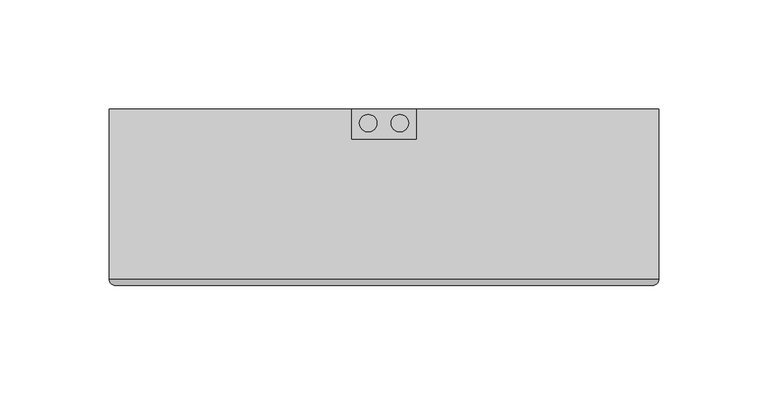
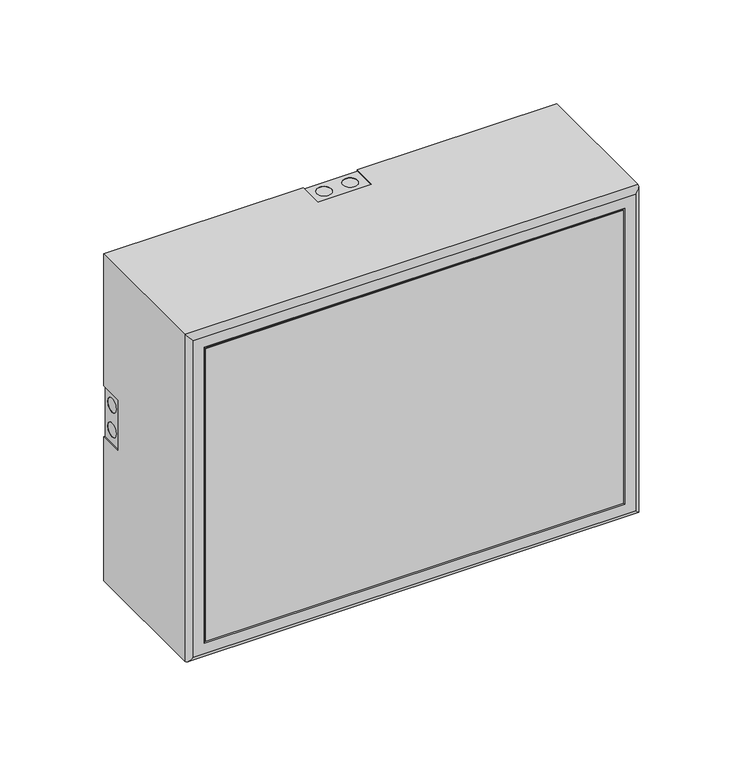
"""IFC4 building model written with IfcOpenShell, lengths in millimetres: proxy geometry, 160831 BIM Data_WA 06-165_T-Metall - EN54 : WA-06-165/T Metall-EN54."""

from ifc_helpers import new_model, si_unit, point, frame, frame_2d, origin, place, context, project, spatial, polyline, circle_curve, ellipse_curve, trimmed, segment, composite_curve, outline, extrude, source, transform, mapped, element, save
from ifc_brep_helpers import plane_surface, cylinder_surface, revolved_surface, advanced_brep


def communication_devices_d5c68b10(model_context):
    return source(origin(), model_context, "Body", "SolidModel", [
        extrude(outline(polyline([(115.9375, 0.0), (-115.9375, 0.0), (-115.9375, 79.3158883), (115.9375, 79.3158883), (115.9375, 0.0)])), frame((0.0, 0.0, 10.0), z_axis=(0.0, 0.0, 1.0), x_axis=(1.0, 0.0, 0.0)), (0.0, 0.0, 1.0), 172.0),
        advanced_brep(
        [(115.9375, 1.0, 182.0), (115.9375, 20.0, 182.0), (115.9375, 20.0, 10.0), (115.9375, 1.0, 10.0), (125.9375, 81.0, 192.0), (125.9375, 3.0, 192.0), (125.9375, 3.0, 0.0), (125.9375, 81.0, 0.0), (125.9375, 81.0, 84.4435161), (125.9375, 67.0, 84.4435161), (125.9375, 67.0, 114.4435161), (125.9375, 81.0, 114.4435161), (-115.9375, 20.0, 10.0), (-115.9375, 1.0, 10.0), (-125.9375, 3.0, 0.0), (-125.9375, 81.0, 0.0), (-115.9375, 20.0, 182.0), (-115.9375, 1.0, 182.0), (-125.9375, 3.0, 192.0), (-125.9375, 81.0, 192.0), (-125.9375, 81.0, 114.4435161), (-125.9375, 67.0, 114.4435161), (-125.9375, 67.0, 84.4435161), (-125.9375, 81.0, 84.4435161), (-125.1728092, 81.0, 84.4435161), (-125.1728092, 81.0, 114.4435161), (-15.0, 81.0, 192.0), (-15.0, 81.0, 191.2353092), (15.0, 81.0, 191.2353092), (15.0, 81.0, 192.0), (125.1728092, 81.0, 114.4435161), (125.1728092, 81.0, 84.4435161), (123.5504381, 81.0, 189.6129381), (-123.5504381, 81.0, 189.6129381), (-123.5504381, 81.0, 2.3870619), (123.5504381, 81.0, 2.3870619), (122.9375, 0.0, 189.0), (-122.9375, 0.0, 189.0), (-122.9375, 0.0, 3.0), (122.9375, 0.0, 3.0), (116.9375, 0.0, 9.0), (-116.9375, 0.0, 9.0), (-116.9375, 0.0, 183.0), (116.9375, 0.0, 183.0), (15.0, 67.0, 192.0), (-15.0, 67.0, 192.0), (123.5504381, 20.0, 2.3870619), (123.5504381, 20.0, 189.6129381), (-123.5504381, 20.0, 2.3870619), (-123.5504381, 20.0, 189.6129381), (-15.0, 67.0, 191.2353092), (15.0, 67.0, 191.2353092), (-3.2462961, 74.5017436, 191.2353092), (-11.2462961, 74.5017436, 191.2353092), (11.2462961, 74.5017436, 191.2353092), (3.2462961, 74.5017436, 191.2353092), (-11.2462961, 74.5017436, 191.0035436), (-3.2462961, 74.5017436, 191.0035436), (3.2462961, 74.5017436, 191.0035436), (11.2462961, 74.5017436, 191.0035436), (-125.1728092, 67.0, 84.4435161), (-125.1728092, 67.0, 114.4435161), (-125.1728092, 74.5017436, 96.19722), (-125.1728092, 74.5017436, 88.19722), (-125.1728092, 74.5017436, 110.6898121), (-125.1728092, 74.5017436, 102.6898121), (-124.9410436, 74.5017436, 88.19722), (-124.9410436, 74.5017436, 96.19722), (-124.9410436, 74.5017436, 102.6898121), (-124.9410436, 74.5017436, 110.6898121), (125.1728092, 67.0, 114.4435161), (125.1728092, 67.0, 84.4435161), (125.1728092, 74.5017436, 88.19722), (125.1728092, 74.5017436, 96.19722), (125.1728092, 74.5017436, 102.6898121), (125.1728092, 74.5017436, 110.6898121), (124.9410436, 74.5017436, 88.19722), (124.9410436, 74.5017436, 96.19722), (124.9410436, 74.5017436, 102.6898121), (124.9410436, 74.5017436, 110.6898121)],
        [
            (0, 1),
            (1, 2),
            (2, 3),
            (3, 0),
            (4, 5),
            (5, 6),
            (6, 7),
            (7, 8),
            (8, 9),
            (9, 10),
            (10, 11),
            (11, 4),
            (2, 12),
            (12, 13),
            (13, 3),
            (6, 14),
            (14, 15),
            (15, 7),
            (12, 16),
            (16, 17),
            (17, 13),
            (14, 18),
            (18, 19),
            (19, 20),
            (20, 21),
            (21, 22),
            (22, 23),
            (23, 15),
            (23, 24),
            (24, 25),
            (25, 20),
            (19, 26),
            (26, 27),
            (27, 28),
            (28, 29),
            (29, 4),
            (11, 30),
            (30, 31),
            (31, 8),
            (32, 33),
            (33, 34),
            (34, 35),
            (35, 32),
            (0, 17),
            (16, 1),
            (36, 37),
            (37, 38),
            (38, 39),
            (39, 36),
            (40, 41),
            (41, 42),
            (42, 43),
            (43, 40),
            (29, 44),
            (44, 45),
            (45, 26),
            (18, 5),
            (5, 36, ellipse_curve(frame((122.9375, 3.0, 189.0), z_axis=(0.7071067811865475, 0.0, -0.7071067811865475), x_axis=(0.7071067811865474, 0.0, 0.7071067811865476)), 4.2426407, 3.0)),
            (39, 6, ellipse_curve(frame((122.9375, 3.0, 3.0), z_axis=(0.7071067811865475, 0.0, 0.7071067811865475), x_axis=(-0.7071067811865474, 0.0, 0.7071067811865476)), 4.2426407, 3.0)),
            (38, 14, ellipse_curve(frame((-122.9375, 3.0, 3.0), z_axis=(0.7071067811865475, 0.0, -0.7071067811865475), x_axis=(0.7071067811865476, 0.0, 0.7071067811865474)), 4.2426407, 3.0)),
            (37, 18, ellipse_curve(frame((-122.9375, 3.0, 189.0), z_axis=(-0.7071067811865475, 0.0, -0.7071067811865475), x_axis=(0.7071067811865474, 0.0, -0.7071067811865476)), 4.2426407, 3.0)),
            (3, 40, ellipse_curve(frame((116.9375, 1.0, 9.0), z_axis=(0.7071067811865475, 0.0, 0.7071067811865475), x_axis=(-0.7071067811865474, 0.0, 0.7071067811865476)), 1.4142136, 1.0)),
            (43, 0, ellipse_curve(frame((116.9375, 1.0, 183.0), z_axis=(0.7071067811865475, 0.0, -0.7071067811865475), x_axis=(0.7071067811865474, 0.0, 0.7071067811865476)), 1.4142136, 1.0)),
            (13, 41, ellipse_curve(frame((-116.9375, 1.0, 9.0), z_axis=(0.7071067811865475, 0.0, -0.7071067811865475), x_axis=(0.7071067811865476, 0.0, 0.7071067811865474)), 1.4142136, 1.0)),
            (17, 42, ellipse_curve(frame((-116.9375, 1.0, 183.0), z_axis=(-0.7071067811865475, 0.0, -0.7071067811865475), x_axis=(0.7071067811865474, 0.0, -0.7071067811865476)), 1.4142136, 1.0)),
            (35, 46),
            (46, 47),
            (47, 32),
            (34, 48),
            (48, 46),
            (33, 49),
            (49, 48),
            (47, 49),
            (27, 50),
            (50, 51),
            (51, 28),
            (52, 53, circle_curve(frame((-7.2462961, 74.5017436, 191.2353092), z_axis=(0.0, 0.0, -1.0), x_axis=(1.0, 0.0, 0.0)), 4.0)),
            (53, 52, circle_curve(frame((-7.2462961, 74.5017436, 191.2353092), z_axis=(0.0, 0.0, -1.0), x_axis=(1.0, 0.0, 0.0)), 4.0)),
            (54, 55, circle_curve(frame((7.2462961, 74.5017436, 191.2353092), z_axis=(0.0, 0.0, -1.0), x_axis=(1.0, 0.0, 0.0)), 4.0)),
            (55, 54, circle_curve(frame((7.2462961, 74.5017436, 191.2353092), z_axis=(0.0, 0.0, -1.0), x_axis=(1.0, 0.0, 0.0)), 4.0)),
            (45, 50),
            (44, 51),
            (56, 57, circle_curve(frame((-7.2462961, 74.5017436, 191.0035436), z_axis=(0.0, 0.0, 1.0), x_axis=(1.0, 0.0, 0.0)), 4.0)),
            (57, 56, circle_curve(frame((-7.2462961, 74.5017436, 191.0035436), z_axis=(0.0, 0.0, 1.0), x_axis=(1.0, 0.0, 0.0)), 4.0)),
            (58, 59, circle_curve(frame((7.2462961, 74.5017436, 191.0035436), z_axis=(0.0, 0.0, 1.0), x_axis=(1.0, 0.0, 0.0)), 4.0)),
            (59, 58, circle_curve(frame((7.2462961, 74.5017436, 191.0035436), z_axis=(0.0, 0.0, 1.0), x_axis=(1.0, 0.0, 0.0)), 4.0)),
            (56, 53),
            (52, 57),
            (58, 55),
            (54, 59),
            (60, 61),
            (61, 25),
            (24, 60),
            (62, 63, circle_curve(frame((-125.1728092, 74.5017436, 92.19722), z_axis=(1.0, 0.0, 0.0), x_axis=(0.0, 0.0, 1.0)), 4.0)),
            (63, 62, circle_curve(frame((-125.1728092, 74.5017436, 92.19722), z_axis=(1.0, 0.0, 0.0), x_axis=(0.0, 0.0, 1.0)), 4.0)),
            (64, 65, circle_curve(frame((-125.1728092, 74.5017436, 106.6898121), z_axis=(1.0, 0.0, 0.0), x_axis=(0.0, 0.0, 1.0)), 4.0)),
            (65, 64, circle_curve(frame((-125.1728092, 74.5017436, 106.6898121), z_axis=(1.0, 0.0, 0.0), x_axis=(0.0, 0.0, 1.0)), 4.0)),
            (22, 60),
            (21, 61),
            (66, 67, circle_curve(frame((-124.9410436, 74.5017436, 92.19722), z_axis=(-1.0, 0.0, 0.0), x_axis=(0.0, 0.0, 1.0)), 4.0)),
            (67, 66, circle_curve(frame((-124.9410436, 74.5017436, 92.19722), z_axis=(-1.0, 0.0, 0.0), x_axis=(0.0, 0.0, 1.0)), 4.0)),
            (68, 69, circle_curve(frame((-124.9410436, 74.5017436, 106.6898121), z_axis=(-1.0, 0.0, 0.0), x_axis=(0.0, 0.0, 1.0)), 4.0)),
            (69, 68, circle_curve(frame((-124.9410436, 74.5017436, 106.6898121), z_axis=(-1.0, 0.0, 0.0), x_axis=(0.0, 0.0, 1.0)), 4.0)),
            (66, 63),
            (62, 67),
            (68, 65),
            (64, 69),
            (70, 71),
            (71, 31),
            (30, 70),
            (72, 73, circle_curve(frame((125.1728092, 74.5017436, 92.19722), z_axis=(-1.0, 0.0, 0.0), x_axis=(0.0, 0.0, 1.0)), 4.0)),
            (73, 72, circle_curve(frame((125.1728092, 74.5017436, 92.19722), z_axis=(-1.0, 0.0, 0.0), x_axis=(0.0, 0.0, 1.0)), 4.0)),
            (74, 75, circle_curve(frame((125.1728092, 74.5017436, 106.6898121), z_axis=(-1.0, 0.0, 0.0), x_axis=(0.0, 0.0, 1.0)), 4.0)),
            (75, 74, circle_curve(frame((125.1728092, 74.5017436, 106.6898121), z_axis=(-1.0, 0.0, 0.0), x_axis=(0.0, 0.0, 1.0)), 4.0)),
            (71, 9),
            (70, 10),
            (76, 77, circle_curve(frame((124.9410436, 74.5017436, 92.19722), z_axis=(1.0, 0.0, 0.0), x_axis=(0.0, 0.0, 1.0)), 4.0)),
            (77, 76, circle_curve(frame((124.9410436, 74.5017436, 92.19722), z_axis=(1.0, 0.0, 0.0), x_axis=(0.0, 0.0, 1.0)), 4.0)),
            (78, 79, circle_curve(frame((124.9410436, 74.5017436, 106.6898121), z_axis=(1.0, 0.0, 0.0), x_axis=(0.0, 0.0, 1.0)), 4.0)),
            (79, 78, circle_curve(frame((124.9410436, 74.5017436, 106.6898121), z_axis=(1.0, 0.0, 0.0), x_axis=(0.0, 0.0, 1.0)), 4.0)),
            (77, 73),
            (72, 76),
            (79, 75),
            (74, 78),
        ],
        [
            plane_surface(frame((115.9375, 20.0, 182.0), z_axis=(-1.0, 0.0, 0.0), x_axis=(0.0, 0.0, -1.0))),
            plane_surface(frame((125.9375, 3.0, 192.0), z_axis=(1.0, 0.0, 0.0), x_axis=(0.0, 0.0, -1.0))),
            plane_surface(frame((115.9375, 20.0, 10.0), z_axis=(0.0, 0.0, 1.0), x_axis=(-1.0, 0.0, 0.0))),
            plane_surface(frame((125.9375, 3.0, 0.0), z_axis=(0.0, 0.0, -1.0), x_axis=(-1.0, 0.0, 0.0))),
            plane_surface(frame((-115.9375, 20.0, 10.0), z_axis=(1.0, 0.0, 0.0), x_axis=(0.0, 0.0, 1.0))),
            plane_surface(frame((-125.9375, 3.0, 0.0), z_axis=(-1.0, 0.0, 0.0), x_axis=(0.0, 0.0, 1.0))),
            plane_surface(frame((-125.9375, 81.0, 192.0), z_axis=(0.0, 1.0, 0.0), x_axis=(1.0, 0.0, 0.0))),
            plane_surface(frame((-115.9375, 20.0, 182.0), z_axis=(0.0, 0.0, -1.0), x_axis=(1.0, 0.0, 0.0))),
            plane_surface(frame((-116.9375, 0.0, 183.0), z_axis=(0.0, -1.0, 0.0), x_axis=(1.0, 0.0, 0.0))),
            plane_surface(frame((-125.9375, 3.0, 192.0), z_axis=(0.0, 0.0, 1.0), x_axis=(1.0, 0.0, 0.0))),
            cylinder_surface(frame((122.9375, 3.0, 192.0), z_axis=(0.0, 0.0, 1.0), x_axis=(1.0, 0.0, 0.0)), 3.0),
            cylinder_surface(frame((125.9375, 3.0, 3.0), z_axis=(1.0, 0.0, 0.0), x_axis=(0.0, 0.0, -1.0)), 3.0),
            cylinder_surface(frame((-122.9375, 3.0, 0.0), z_axis=(0.0, 0.0, -1.0), x_axis=(-1.0, 0.0, 0.0)), 3.0),
            cylinder_surface(frame((-125.9375, 3.0, 189.0), z_axis=(-1.0, 0.0, 0.0), x_axis=(0.0, 0.0, 1.0)), 3.0),
            cylinder_surface(frame((116.9375, 1.0, 192.0), z_axis=(0.0, 0.0, 1.0), x_axis=(1.0, 0.0, 0.0)), 1.0),
            cylinder_surface(frame((125.9375, 1.0, 9.0), z_axis=(1.0, 0.0, 0.0), x_axis=(0.0, 0.0, -1.0)), 1.0),
            cylinder_surface(frame((-116.9375, 1.0, 0.0), z_axis=(0.0, 0.0, -1.0), x_axis=(-1.0, 0.0, 0.0)), 1.0),
            cylinder_surface(frame((-125.9375, 1.0, 183.0), z_axis=(-1.0, 0.0, 0.0), x_axis=(0.0, 0.0, 1.0)), 1.0),
            plane_surface(frame((123.5504381, 81.0, 189.6129381), z_axis=(-1.0, 0.0, 0.0), x_axis=(0.0, 0.0, -1.0))),
            plane_surface(frame((123.5504381, 81.0, 2.3870619), z_axis=(0.0, 0.0, 1.0), x_axis=(-1.0, 0.0, 0.0))),
            plane_surface(frame((-123.5504381, 81.0, 2.3870619), z_axis=(1.0, 0.0, 0.0), x_axis=(0.0, 0.0, 1.0))),
            plane_surface(frame((-123.5504381, 81.0, 189.6129381), z_axis=(0.0, 0.0, -1.0), x_axis=(1.0, 0.0, 0.0))),
            plane_surface(frame((-123.5504381, 20.0, 189.6129381), z_axis=(0.0, 1.0, 0.0), x_axis=(1.0, 0.0, 0.0))),
            plane_surface(frame((-15.0, 81.0, 191.2353092), z_axis=(0.0, 0.0, 1.0), x_axis=(1.0, 0.0, 0.0))),
            plane_surface(frame((-15.0, 81.0, 192.0), z_axis=(1.0, 0.0, 0.0), x_axis=(0.0, 0.0, -1.0))),
            plane_surface(frame((-15.0, 67.0, 192.0), z_axis=(0.0, 1.0, 0.0), x_axis=(0.0, 0.0, -1.0))),
            plane_surface(frame((15.0, 67.0, 192.0), z_axis=(-1.0, 0.0, 0.0), x_axis=(0.0, 0.0, -1.0))),
            plane_surface(frame((-3.2462961, 74.5017436, 191.0035436), z_axis=(0.0, 0.0, 1.0), x_axis=(0.0, -1.0, 0.0))),
            revolved_surface(polyline([(-3.2462961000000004, 74.5017436, 191.2353092), (-3.2462961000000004, 74.5017436, 191.0035436)]), (-7.2462961, 74.5017436, 191.0035436), (0.0, 0.0, 1.0)),
            revolved_surface(polyline([(11.2462961, 74.5017436, 191.2353092), (11.2462961, 74.5017436, 191.0035436)]), (7.2462961, 74.5017436, 0.0), (0.0, 0.0, 1.0)),
            plane_surface(frame((-125.1728092, 82.0, 84.4435161), z_axis=(-1.0, 0.0, 0.0), x_axis=(0.0, 0.0, 1.0))),
            plane_surface(frame((-125.9375, 82.0, 84.4435161), z_axis=(0.0, 0.0, 1.0), x_axis=(1.0, 0.0, 0.0))),
            plane_surface(frame((-125.9375, 67.0, 84.4435161), z_axis=(0.0, 1.0, 0.0), x_axis=(1.0, 0.0, 0.0))),
            plane_surface(frame((-125.9375, 67.0, 114.4435161), z_axis=(0.0, 0.0, -1.0), x_axis=(1.0, 0.0, 0.0))),
            plane_surface(frame((-124.9410436, 74.5017436, 96.19722), z_axis=(-1.0, 0.0, 0.0), x_axis=(0.0, -1.0, 0.0))),
            revolved_surface(polyline([(-125.1728092, 74.5017436, 96.19722), (-124.9410436, 74.5017436, 96.19722)]), (-124.9410436, 74.5017436, 92.19722), (-1.0, 0.0, 0.0)),
            revolved_surface(polyline([(-125.17280920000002, 74.5017436, 110.6898121), (-124.9410436, 74.5017436, 110.6898121)]), (66.0625, 74.5017436, 106.6898121), (-1.0, 0.0, 0.0)),
            plane_surface(frame((125.1728092, 82.0, 114.4435161), z_axis=(1.0, 0.0, 0.0), x_axis=(0.0, 1.0, 0.0))),
            plane_surface(frame((125.9375, 67.0, 84.4435161), z_axis=(0.0, 0.0, 1.0), x_axis=(-1.0, 0.0, 0.0))),
            plane_surface(frame((125.9375, 67.0, 114.4435161), z_axis=(0.0, 1.0, 0.0), x_axis=(-1.0, 0.0, 0.0))),
            plane_surface(frame((125.9375, 82.0, 114.4435161), z_axis=(0.0, 0.0, -1.0), x_axis=(-1.0, 0.0, 0.0))),
            plane_surface(frame((124.9410436, 74.5017436, 96.19722), z_axis=(1.0, 0.0, 0.0), x_axis=(0.0, 1.0, 0.0))),
            revolved_surface(polyline([(125.1728092, 74.5017436, 96.19722), (124.9410436, 74.5017436, 96.19722)]), (124.9410436, 74.5017436, 92.19722), (1.0, 0.0, 0.0)),
            revolved_surface(polyline([(125.17280920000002, 74.5017436, 110.6898121), (124.9410436, 74.5017436, 110.6898121)]), (-66.0625, 74.5017436, 106.6898121), (1.0, 0.0, 0.0)),
        ],
        [
            (0, [[1, 2, 3, 4]]),
            (1, [[5, 6, 7, 8, 9, 10, 11, 12]]),
            (2, [[-3, 13, 14, 15]]),
            (3, [[-7, 16, 17, 18]]),
            (4, [[-14, 19, 20, 21]]),
            (5, [[-17, 22, 23, 24, 25, 26, 27, 28]]),
            (6, [[-18, -28, 29, 30, 31, -24, 32, 33, 34, 35, 36, -12, 37, 38, 39, -8], [40, 41, 42, 43]]),
            (7, [[-1, 44, -20, 45]]),
            (8, [[46, 47, 48, 49], [50, 51, 52, 53]]),
            (9, [[-5, -36, 54, 55, 56, -32, -23, 57]]),
            (10, [[-6, 58, -49, 59]]),
            (11, [[-16, -59, -48, 60]]),
            (12, [[-22, -60, -47, 61]]),
            (13, [[-46, -58, -57, -61]]),
            (14, [[-4, 62, -53, 63]]),
            (15, [[-15, 64, -50, -62]]),
            (16, [[-21, 65, -51, -64]]),
            (17, [[-44, -63, -52, -65]]),
            (18, [[-43, 66, 67, 68]]),
            (19, [[-42, 69, 70, -66]]),
            (20, [[-41, 71, 72, -69]]),
            (21, [[-40, -68, 73, -71]]),
            (22, [[-67, -70, -72, -73], [-2, -45, -19, -13]]),
            (23, [[74, 75, 76, -34], [77, 78], [79, 80]]),
            (24, [[-74, -33, -56, 81]]),
            (25, [[-75, -81, -55, 82]]),
            (26, [[-76, -82, -54, -35]]),
            (27, [[83, 84]]),
            (27, [[85, 86]]),
            (28, [[-83, 87, -77, 88]]),
            (28, [[-84, -88, -78, -87]]),
            (29, [[-85, 89, -79, 90]]),
            (29, [[-86, -90, -80, -89]]),
            (30, [[91, 92, -30, 93], [94, 95], [96, 97]]),
            (31, [[98, -93, -29, -27]]),
            (32, [[-91, -98, -26, 99]]),
            (33, [[-99, -25, -31, -92]]),
            (34, [[100, 101]]),
            (34, [[102, 103]]),
            (35, [[-100, 104, -94, 105]]),
            (35, [[-101, -105, -95, -104]]),
            (36, [[-102, 106, -96, 107]]),
            (36, [[-103, -107, -97, -106]]),
            (37, [[108, 109, -38, 110], [111, 112], [113, 114]]),
            (38, [[115, -9, -39, -109]]),
            (39, [[-108, 116, -10, -115]]),
            (40, [[-116, -110, -37, -11]]),
            (41, [[117, 118]]),
            (41, [[119, 120]]),
            (42, [[-118, 121, -111, 122]]),
            (42, [[-117, -122, -112, -121]]),
            (43, [[-120, 123, -113, 124]]),
            (43, [[-119, -124, -114, -123]]),
        ],
    ),
        extrude(outline(polyline([(189.6129381, -123.5504381), (2.3870619, -123.5504381), (2.3870619, 123.5504381), (189.6129381, 123.5504381), (189.6129381, -123.5504381)]), holes=[composite_curve([segment(trimmed(circle_curve(frame_2d((126.3725186, -81.5622102)), 10.0), [point((126.3725186, -91.5622102))], [point((126.3725186, -71.5622102))], True, "CARTESIAN"), True, "CONTINUOUS"), segment(trimmed(circle_curve(frame_2d((126.3725186, -81.5622102)), 10.0), [point((126.3725186, -71.5622102))], [point((126.3725186, -91.5622102))], True, "CARTESIAN"), True, "CONTINUOUS")], self_intersect=False), composite_curve([segment(polyline([(76.1958858, -83.101546), (76.1958858, -73.2286068)]), True, "CONTINUOUS"), segment(trimmed(circle_curve(frame_2d((72.1958858, -73.2286068)), 4.0), [point((76.1958858, -73.2286068))], [point((68.1958858, -73.2286068))], True, "CARTESIAN"), True, "CONTINUOUS"), segment(polyline([(68.1958858, -73.2286068), (68.1958858, -83.101546)]), True, "CONTINUOUS"), segment(trimmed(circle_curve(frame_2d((72.1958858, -83.101546)), 4.0), [point((68.1958858, -83.101546))], [point((76.1958858, -83.101546))], True, "CARTESIAN"), True, "CONTINUOUS")], self_intersect=False), composite_curve([segment(polyline([(66.2594162, 74.3349236), (77.3823554, 74.3349236)]), True, "CONTINUOUS"), segment(trimmed(circle_curve(frame_2d((77.3823554, 78.3349236)), 4.0), [point((77.3823554, 74.3349236))], [point((77.3823554, 82.3349236))], True, "CARTESIAN"), True, "CONTINUOUS"), segment(polyline([(77.3823554, 82.3349236), (66.2594162, 82.3349236)]), True, "CONTINUOUS"), segment(trimmed(circle_curve(frame_2d((66.2594162, 78.3349236)), 4.0), [point((66.2594162, 82.3349236))], [point((66.2594162, 74.3349236))], True, "CARTESIAN"), True, "CONTINUOUS")], self_intersect=False), composite_curve([segment(trimmed(circle_curve(frame_2d((76.1958858, 0.0)), 10.0), [point((76.1958858, -10.0))], [point((76.1958858, 10.0))], True, "CARTESIAN"), True, "CONTINUOUS"), segment(trimmed(circle_curve(frame_2d((76.1958858, 0.0)), 10.0), [point((76.1958858, 10.0))], [point((76.1958858, -10.0))], True, "CARTESIAN"), True, "CONTINUOUS")], self_intersect=False), composite_curve([segment(trimmed(circle_curve(frame_2d((138.75, -4.2906934)), 4.9931477), [point((138.75, -9.283841))], [point((138.75, 0.7024543))], True, "CARTESIAN"), True, "CONTINUOUS"), segment(trimmed(circle_curve(frame_2d((138.75, -4.2906934)), 4.9931477), [point((138.75, 0.7024543))], [point((138.75, -9.283841))], True, "CARTESIAN"), True, "CONTINUOUS")], self_intersect=False), composite_curve([segment(trimmed(circle_curve(frame_2d((50.0598595, -38.3356486)), 4.9931477), [point((50.0598595, -33.3425009))], [point((50.0598595, -43.3287963))], True, "CARTESIAN"), True, "CONTINUOUS"), segment(trimmed(circle_curve(frame_2d((50.0598595, -38.3356486)), 4.9931477), [point((50.0598595, -43.3287963))], [point((50.0598595, -33.3425009))], True, "CARTESIAN"), True, "CONTINUOUS")], self_intersect=False), composite_curve([segment(trimmed(circle_curve(frame_2d((43.1139324, 1.0566615)), 4.9931477), [point((43.1139324, 6.0498092))], [point((43.1139324, -3.9364861))], True, "CARTESIAN"), True, "CONTINUOUS"), segment(trimmed(circle_curve(frame_2d((43.1139324, 1.0566615)), 4.9931477), [point((43.1139324, -3.9364861))], [point((43.1139324, 6.0498092))], True, "CARTESIAN"), True, "CONTINUOUS")], self_intersect=False)]), frame((0.0, 79.0969, 0.0), z_axis=(0.0, 1.0, 0.0), x_axis=(0.0, 0.0, 1.0)), (0.0, 0.0, 1.0), 0.9031),
    ])


if __name__ == "__main__":
    model = new_model("IFC4")
    model_context = context("Model", 3, world=origin())
    ifc_project = project(units=[si_unit("LENGTHUNIT", "METRE", prefix="MILLI")], contexts=[model_context])
    site = spatial("IfcSite", under=ifc_project)
    building = spatial("IfcBuilding", under=site)
    placement = place(None, origin())
    communication_devices_shape = communication_devices_d5c68b10(model_context)
    element("IfcBuildingElementProxy", 1, Name="160831 BIM Data_WA 06-165_T-Metall - EN54 : WA-06-165/T Metall-EN54", ObjectType="160831 BIM Data_WA 06-165_T-Metall - EN54 : WA-06-165/T Metall-EN54", at=placement, inside=building, context=model_context, shape_type="MappedRepresentation", body=[
        mapped(communication_devices_shape, transform((0.0, 0.0, 0.0), x_axis=(1.0, 0.0, 0.0), y_axis=(0.0, 1.0, 0.0), z_axis=(0.0, 0.0, 1.0))),
    ])
    save(model, "model.ifc")
